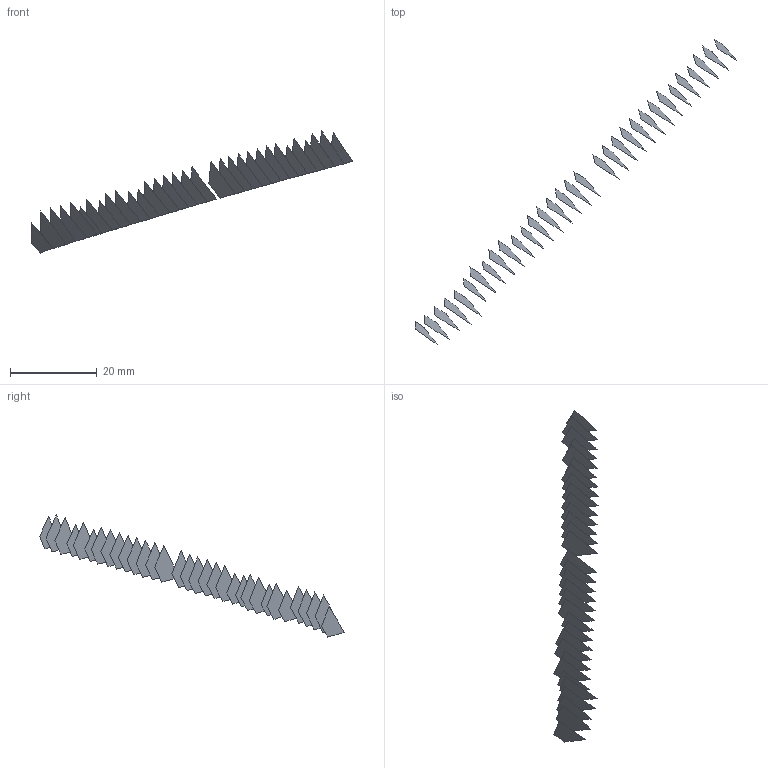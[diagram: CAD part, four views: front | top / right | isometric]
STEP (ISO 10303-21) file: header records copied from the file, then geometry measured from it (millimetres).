
FILE_DESCRIPTION(('FreeCAD Model'),'2;1');
FILE_NAME('Open CASCADE Shape Model','2022-05-22T07:50:32',('FreeCAD'),( 'FreeCAD'),'Open CASCADE STEP processor 7.5','FreeCAD','Unknown');
FILE_SCHEMA(('AUTOMOTIVE_DESIGN { 1 0 10303 214 1 1 1 1 }'));
Length unit declared in the file: millimetre
Products named in the file (33): Open CASCADE STEP translator 7.5 7; Open CASCADE STEP translator 7.5 7.1; Open CASCADE STEP translator 7.5 7.2; Open CASCADE STEP translator 7.5 7.3; Open CASCADE STEP translator 7.5 7.4; Open CASCADE STEP translator 7.5 7.5; Open CASCADE STEP translator 7.5 7.6; Open CASCADE STEP translator 7.5 7.7; Open CASCADE STEP translator 7.5 7.8; Open CASCADE STEP translator 7.5 7.9; Open CASCADE STEP translator 7.5 7.10; Open CASCADE STEP translator 7.5 7.11; Open CASCADE STEP translator 7.5 7.12; Open CASCADE STEP translator 7.5 7.13; Open CASCADE STEP translator 7.5 7.14; Open CASCADE STEP translator 7.5 7.15; Open CASCADE STEP translator 7.5 7.16; Open CASCADE STEP translator 7.5 7.17; Open CASCADE STEP translator 7.5 7.18; Open CASCADE STEP translator 7.5 7.19; Open CASCADE STEP translator 7.5 7.20; Open CASCADE STEP translator 7.5 7.21; Open CASCADE STEP translator 7.5 7.22; Open CASCADE STEP translator 7.5 7.23; Open CASCADE STEP translator 7.5 7.24; Open CASCADE STEP translator 7.5 7.25; Open CASCADE STEP translator 7.5 7.26; Open CASCADE STEP translator 7.5 7.27; Open CASCADE STEP translator 7.5 7.28; Open CASCADE STEP translator 7.5 7.29; Open CASCADE STEP translator 7.5 7.30; Open CASCADE STEP translator 7.5 7.31; Open CASCADE STEP translator 7.5 7.32
Assembly tree (32 placements, depth 2):
  Open CASCADE STEP translator 7.5 7
    Open CASCADE STEP translator 7.5 7.1
    Open CASCADE STEP translator 7.5 7.2
    Open CASCADE STEP translator 7.5 7.3
    Open CASCADE STEP translator 7.5 7.4
    Open CASCADE STEP translator 7.5 7.5
    Open CASCADE STEP translator 7.5 7.6
    Open CASCADE STEP translator 7.5 7.7
    Open CASCADE STEP translator 7.5 7.8
    Open CASCADE STEP translator 7.5 7.9
    Open CASCADE STEP translator 7.5 7.10
    Open CASCADE STEP translator 7.5 7.11
    Open CASCADE STEP translator 7.5 7.12
    Open CASCADE STEP translator 7.5 7.13
    Open CASCADE STEP translator 7.5 7.14
    Open CASCADE STEP translator 7.5 7.15
    Open CASCADE STEP translator 7.5 7.16
    Open CASCADE STEP translator 7.5 7.17
    Open CASCADE STEP translator 7.5 7.18
    Open CASCADE STEP translator 7.5 7.19
    Open CASCADE STEP translator 7.5 7.20
    Open CASCADE STEP translator 7.5 7.21
    Open CASCADE STEP translator 7.5 7.22
    Open CASCADE STEP translator 7.5 7.23
    Open CASCADE STEP translator 7.5 7.24
    Open CASCADE STEP translator 7.5 7.25
    Open CASCADE STEP translator 7.5 7.26
    Open CASCADE STEP translator 7.5 7.27
    Open CASCADE STEP translator 7.5 7.28
    Open CASCADE STEP translator 7.5 7.29
    Open CASCADE STEP translator 7.5 7.30
    Open CASCADE STEP translator 7.5 7.31
    Open CASCADE STEP translator 7.5 7.32
Bounding box: 74.05 x 70.11 x 28.11 mm (x, y, z)
Surface area: 1045.3 mm2 (no closed solid volume)
Topology: 0 solids, 32 shells, 32 faces, 333 edges, 333 vertices
Faces by surface type: bspline 32
Entity records: 5241 total; most frequent: CARTESIAN_POINT 1826, B_SPLINE_CURVE_WITH_KNOTS 666, ORIENTED_EDGE 333, EDGE_CURVE 333, VERTEX_POINT 333, SURFACE_CURVE 333, PCURVE 333, DEFINITIONAL_REPRESENTATION 333
